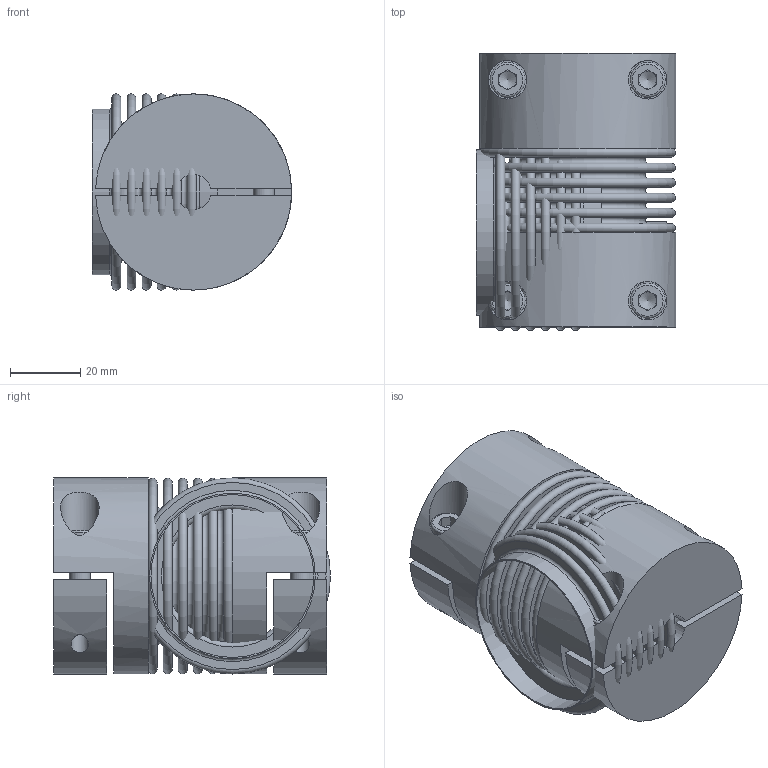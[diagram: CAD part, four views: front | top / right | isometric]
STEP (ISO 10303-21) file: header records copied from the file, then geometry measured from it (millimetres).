
FILE_DESCRIPTION( ( 'Unknown' ), '1' );
FILE_NAME( 'C:/Dokumente und Einstellungen/SKarpstein/Desktop/hp kbk/KB4H-30-77.stp', 'Unknown', ( 'Unknown' ), ( 'Unknown' ), 'XStep 1.0', 'Unknown', ' ' );
FILE_SCHEMA( ( 'automotive_design' ) );
Length unit declared in the file: millimetre
Products named in the file (5): Assem1; KN4H-30; Socket Head Cap Screw_DIN_DIN 912 M6 x 20 --- 20N_3; BL30_Standard_0
Bounding box: 56.9 x 79.04 x 56 mm (x, y, z)
Volume: 190460.1 mm3; surface area: 120720.2 mm2
Topology: 13 solids, 13 shells, 276 faces, 553 edges, 359 vertices
Faces by surface type: plane 160, torus 58, cylinder 48, cone 10
Full cylindrical faces by diameter (mm): 4.917 x6, 6 x5, 6.4 x6, 10 x8, 11 x6, 46.5 x4, 47.3 x4, 56 x3
Entity records: 2970 total; most frequent: CARTESIAN_POINT 617, DIRECTION 422, ORIENTED_EDGE 258, AXIS2_PLACEMENT_3D 191, EDGE_LOOP 176, FACE_OUTER_BOUND 136, EDGE_CURVE 129, VERTEX_POINT 110
